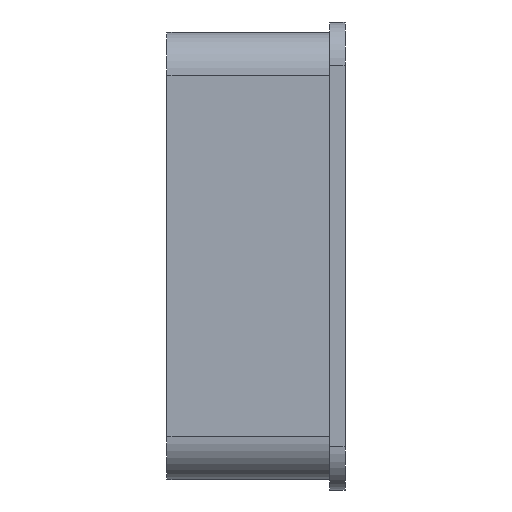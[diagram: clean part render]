
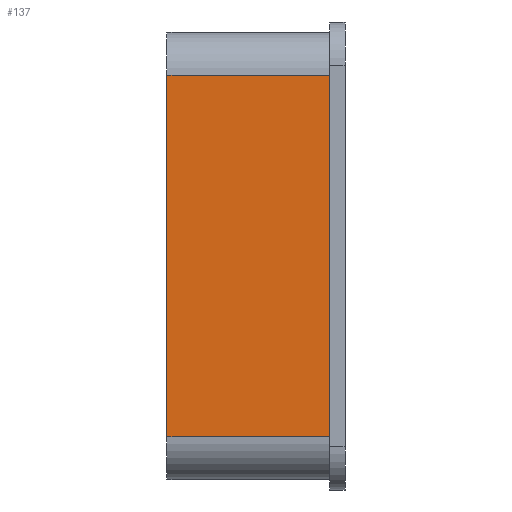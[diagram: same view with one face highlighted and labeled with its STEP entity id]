
A CAD part, left-side view. The second image highlights one B-rep face of the part: STEP entity #137.
In plain terms, the highlighted planar face has unit normal (-1, 0, 0).
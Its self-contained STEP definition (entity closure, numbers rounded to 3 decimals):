
#137 = ADVANCED_FACE( '', ( #267 ), #268, .T. );
#267 = FACE_OUTER_BOUND( '', #383, .T. );
#268 = PLANE( '', #384 );
#383 = EDGE_LOOP( '', ( #650, #651, #652, #653 ) );
#384 = AXIS2_PLACEMENT_3D( '', #654, #655, #656 );
#650 = ORIENTED_EDGE( '', *, *, #677, .F. );
#651 = ORIENTED_EDGE( '', *, *, #779, .F. );
#652 = ORIENTED_EDGE( '', *, *, #752, .T. );
#653 = ORIENTED_EDGE( '', *, *, #770, .T. );
#654 = CARTESIAN_POINT( '', ( -3.5, -16., -17.75 ) );
#655 = DIRECTION( '', ( -1., 0., 0. ) );
#656 = DIRECTION( '', ( 0., 0., 1. ) );
#677 = EDGE_CURVE( '', #787, #788, #789, .T. );
#752 = EDGE_CURVE( '', #908, #906, #909, .T. );
#770 = EDGE_CURVE( '', #906, #788, #930, .T. );
#779 = EDGE_CURVE( '', #908, #787, #939, .T. );
#787 = VERTEX_POINT( '', #947 );
#788 = VERTEX_POINT( '', #948 );
#789 = LINE( '', #949, #950 );
#906 = VERTEX_POINT( '', #1103 );
#908 = VERTEX_POINT( '', #1105 );
#909 = LINE( '', #1106, #1107 );
#930 = LINE( '', #1134, #1135 );
#939 = LINE( '', #1146, #1147 );
#947 = CARTESIAN_POINT( '', ( -3.5, 0., -17.75 ) );
#948 = CARTESIAN_POINT( '', ( -3.5, 0., 17.75 ) );
#949 = CARTESIAN_POINT( '', ( -3.5, 0., -17.75 ) );
#950 = VECTOR( '', #1156, 1000. );
#1103 = CARTESIAN_POINT( '', ( -3.5, -16., 17.75 ) );
#1105 = CARTESIAN_POINT( '', ( -3.5, -16., -17.75 ) );
#1106 = CARTESIAN_POINT( '', ( -3.5, -16., -17.75 ) );
#1107 = VECTOR( '', #1259, 1000. );
#1134 = CARTESIAN_POINT( '', ( -3.5, -16., 17.75 ) );
#1135 = VECTOR( '', #1278, 1000. );
#1146 = CARTESIAN_POINT( '', ( -3.5, -16., -17.75 ) );
#1147 = VECTOR( '', #1281, 1000. );
#1156 = DIRECTION( '', ( 0., 0., 1. ) );
#1259 = DIRECTION( '', ( 0., 0., 1. ) );
#1278 = DIRECTION( '', ( 0., 1., 0. ) );
#1281 = DIRECTION( '', ( 0., 1., 0. ) );
